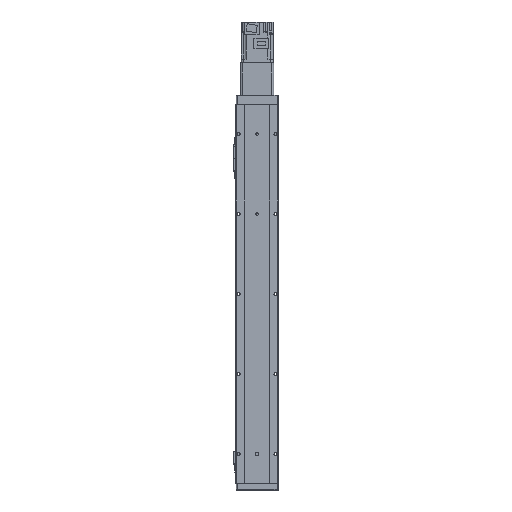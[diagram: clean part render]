
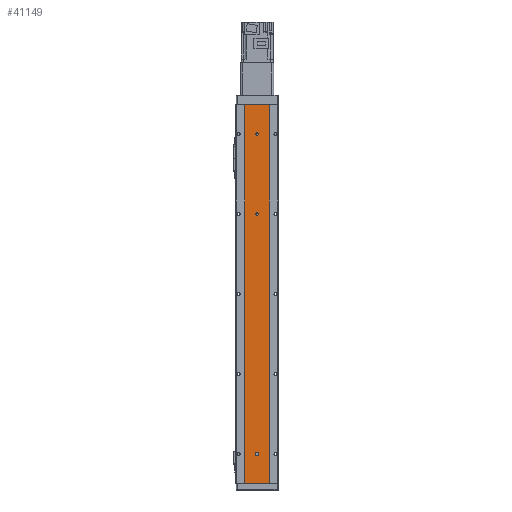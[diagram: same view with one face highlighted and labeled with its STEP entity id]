
A CAD part, front view. The second image highlights one B-rep face of the part: STEP entity #41149.
In plain terms, the highlighted planar face has unit normal (0, -1, 0).
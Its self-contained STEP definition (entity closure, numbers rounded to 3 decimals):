
#5382 = CIRCLE ( 'NONE', #19196, 2.5 ) ;
#6478 = DIRECTION ( 'NONE',  ( 0., -1., 0. ) ) ;
#6502 = DIRECTION ( 'NONE',  ( 1., 0., 0. ) ) ;
#6511 = PLANE ( 'NONE',  #43557 ) ;
#6520 = CARTESIAN_POINT ( 'NONE',  ( -23., 0.5, -709. ) ) ;
#7676 = EDGE_CURVE ( 'NONE', #24723, #24822, #29555, .T. ) ;
#7740 = EDGE_CURVE ( 'NONE', #24629, #24762, #29688, .T. ) ;
#8249 = EDGE_CURVE ( 'NONE', #24298, #25447, #33829, .T. ) ;
#8254 = EDGE_CURVE ( 'NONE', #24762, #24822, #33826, .T. ) ;
#8255 = EDGE_CURVE ( 'NONE', #24380, #24350, #33821, .T. ) ;
#8265 = EDGE_CURVE ( 'NONE', #24629, #24723, #33812, .T. ) ;
#8274 = EDGE_CURVE ( 'NONE', #25426, #24294, #33905, .T. ) ;
#8277 = EDGE_CURVE ( 'NONE', #24433, #24431, #33907, .T. ) ;
#8293 = EDGE_CURVE ( 'NONE', #25456, #25426, #33884, .T. ) ;
#8298 = EDGE_CURVE ( 'NONE', #25447, #25456, #33920, .T. ) ;
#9129 = EDGE_CURVE ( 'NONE', #24350, #24380, #31945, .T. ) ;
#9189 = EDGE_CURVE ( 'NONE', #24431, #24433, #32077, .T. ) ;
#11381 = EDGE_LOOP ( 'NONE', ( #12545, #12517, #12503, #12588, #12451 ) ) ;
#11389 = EDGE_LOOP ( 'NONE', ( #12531, #12549 ) ) ;
#11407 = EDGE_LOOP ( 'NONE', ( #12641, #12580 ) ) ;
#11534 = EDGE_LOOP ( 'NONE', ( #12620, #12608, #12558, #12743 ) ) ;
#12451 = ORIENTED_EDGE ( 'NONE', *, *, #43024, .F. ) ;
#12503 = ORIENTED_EDGE ( 'NONE', *, *, #8298, .F. ) ;
#12517 = ORIENTED_EDGE ( 'NONE', *, *, #8293, .F. ) ;
#12531 = ORIENTED_EDGE ( 'NONE', *, *, #8255, .F. ) ;
#12545 = ORIENTED_EDGE ( 'NONE', *, *, #8274, .F. ) ;
#12549 = ORIENTED_EDGE ( 'NONE', *, *, #9129, .F. ) ;
#12558 = ORIENTED_EDGE ( 'NONE', *, *, #7740, .T. ) ;
#12580 = ORIENTED_EDGE ( 'NONE', *, *, #9189, .F. ) ;
#12588 = ORIENTED_EDGE ( 'NONE', *, *, #8249, .F. ) ;
#12608 = ORIENTED_EDGE ( 'NONE', *, *, #8265, .F. ) ;
#12620 = ORIENTED_EDGE ( 'NONE', *, *, #7676, .F. ) ;
#12641 = ORIENTED_EDGE ( 'NONE', *, *, #8277, .F. ) ;
#12743 = ORIENTED_EDGE ( 'NONE', *, *, #8254, .T. ) ;
#15823 = AXIS2_PLACEMENT_3D ( 'NONE', #35235, #35185, #35178 ) ;
#15825 = AXIS2_PLACEMENT_3D ( 'NONE', #35247, #35266, #35302 ) ;
#15832 = AXIS2_PLACEMENT_3D ( 'NONE', #35377, #35431, #35412 ) ;
#15833 = AXIS2_PLACEMENT_3D ( 'NONE', #35500, #35437, #35438 ) ;
#19196 = AXIS2_PLACEMENT_3D ( 'NONE', #41003, #40964, #40986 ) ;
#22775 = CARTESIAN_POINT ( 'NONE',  ( 0., 0.5, -658. ) ) ;
#22792 = CARTESIAN_POINT ( 'NONE',  ( 2.5, 0.5, -655.5 ) ) ;
#22836 = CARTESIAN_POINT ( 'NONE',  ( 0., 0.5, -57. ) ) ;
#22902 = CARTESIAN_POINT ( 'NONE',  ( 0., 0.5, -202. ) ) ;
#22905 = CARTESIAN_POINT ( 'NONE',  ( 0., 0.5, -207. ) ) ;
#22910 = CARTESIAN_POINT ( 'NONE',  ( 0., 0.5, -52. ) ) ;
#23055 = CARTESIAN_POINT ( 'NONE',  ( -23., 0.5, -709. ) ) ;
#23103 = CARTESIAN_POINT ( 'NONE',  ( -23., 0.5, 0. ) ) ;
#23134 = CARTESIAN_POINT ( 'NONE',  ( 23., 0.5, -709. ) ) ;
#23180 = CARTESIAN_POINT ( 'NONE',  ( 23., 0.5, 0. ) ) ;
#23591 = CARTESIAN_POINT ( 'NONE',  ( -2.5, 0.5, -655.5 ) ) ;
#23617 = CARTESIAN_POINT ( 'NONE',  ( 2.5, 0.5, -653.5 ) ) ;
#23628 = CARTESIAN_POINT ( 'NONE',  ( -2.5, 0.5, -653.5 ) ) ;
#24294 = VERTEX_POINT ( 'NONE', #22775 ) ;
#24298 = VERTEX_POINT ( 'NONE', #22792 ) ;
#24350 = VERTEX_POINT ( 'NONE', #22902 ) ;
#24380 = VERTEX_POINT ( 'NONE', #22905 ) ;
#24431 = VERTEX_POINT ( 'NONE', #22910 ) ;
#24433 = VERTEX_POINT ( 'NONE', #22836 ) ;
#24629 = VERTEX_POINT ( 'NONE', #23055 ) ;
#24723 = VERTEX_POINT ( 'NONE', #23103 ) ;
#24762 = VERTEX_POINT ( 'NONE', #23134 ) ;
#24822 = VERTEX_POINT ( 'NONE', #23180 ) ;
#25426 = VERTEX_POINT ( 'NONE', #23591 ) ;
#25447 = VERTEX_POINT ( 'NONE', #23617 ) ;
#25456 = VERTEX_POINT ( 'NONE', #23628 ) ;
#25871 = CARTESIAN_POINT ( 'NONE',  ( -23., 0.5, 0. ) ) ;
#25878 = DIRECTION ( 'NONE',  ( 1., 0., 0. ) ) ;
#26036 = DIRECTION ( 'NONE',  ( 1., 0., 0. ) ) ;
#26049 = CARTESIAN_POINT ( 'NONE',  ( -23., 0.5, -709. ) ) ;
#29555 = LINE ( 'NONE', #25871, #29560 ) ;
#29560 = VECTOR ( 'NONE', #25878, 1000. ) ;
#29638 = VECTOR ( 'NONE', #26036, 1000. ) ;
#29688 = LINE ( 'NONE', #26049, #29638 ) ;
#31945 = CIRCLE ( 'NONE', #43165, 2.5 ) ;
#32077 = CIRCLE ( 'NONE', #43197, 2.5 ) ;
#33021 = CARTESIAN_POINT ( 'NONE',  ( 0., 0.5, -204.5 ) ) ;
#33024 = DIRECTION ( 'NONE',  ( 1., 0., 0. ) ) ;
#33053 = DIRECTION ( 'NONE',  ( 0., -1., 0. ) ) ;
#33153 = DIRECTION ( 'NONE',  ( 1., 0., 0. ) ) ;
#33156 = DIRECTION ( 'NONE',  ( 0., -1., 0. ) ) ;
#33172 = CARTESIAN_POINT ( 'NONE',  ( 0., 0.5, -54.5 ) ) ;
#33812 = LINE ( 'NONE', #35285, #33817 ) ;
#33817 = VECTOR ( 'NONE', #35336, 1000. ) ;
#33821 = CIRCLE ( 'NONE', #15823, 2.5 ) ;
#33826 = LINE ( 'NONE', #35154, #33841 ) ;
#33829 = LINE ( 'NONE', #35208, #33851 ) ;
#33841 = VECTOR ( 'NONE', #35231, 1000. ) ;
#33851 = VECTOR ( 'NONE', #35224, 1000. ) ;
#33884 = LINE ( 'NONE', #35407, #33898 ) ;
#33898 = VECTOR ( 'NONE', #35384, 1000. ) ;
#33905 = CIRCLE ( 'NONE', #15825, 2.5 ) ;
#33907 = CIRCLE ( 'NONE', #15832, 2.5 ) ;
#33920 = CIRCLE ( 'NONE', #15833, 2.5 ) ;
#35154 = CARTESIAN_POINT ( 'NONE',  ( 23., 0.5, -709. ) ) ;
#35178 = DIRECTION ( 'NONE',  ( 1., 0., 0. ) ) ;
#35185 = DIRECTION ( 'NONE',  ( 0., -1., 0. ) ) ;
#35208 = CARTESIAN_POINT ( 'NONE',  ( 2.5, 0.5, -709. ) ) ;
#35224 = DIRECTION ( 'NONE',  ( 0., 0., 1. ) ) ;
#35231 = DIRECTION ( 'NONE',  ( 0., 0., 1. ) ) ;
#35235 = CARTESIAN_POINT ( 'NONE',  ( 0., 0.5, -204.5 ) ) ;
#35247 = CARTESIAN_POINT ( 'NONE',  ( 0., 0.5, -655.5 ) ) ;
#35266 = DIRECTION ( 'NONE',  ( 0., -1., 0. ) ) ;
#35285 = CARTESIAN_POINT ( 'NONE',  ( -23., 0.5, -709. ) ) ;
#35302 = DIRECTION ( 'NONE',  ( 1., 0., 0. ) ) ;
#35336 = DIRECTION ( 'NONE',  ( 0., 0., 1. ) ) ;
#35377 = CARTESIAN_POINT ( 'NONE',  ( 0., 0.5, -54.5 ) ) ;
#35384 = DIRECTION ( 'NONE',  ( 0., 0., -1. ) ) ;
#35407 = CARTESIAN_POINT ( 'NONE',  ( -2.5, 0.5, -709. ) ) ;
#35412 = DIRECTION ( 'NONE',  ( 1., 0., 0. ) ) ;
#35431 = DIRECTION ( 'NONE',  ( 0., -1., 0. ) ) ;
#35437 = DIRECTION ( 'NONE',  ( 0., -1., 0. ) ) ;
#35438 = DIRECTION ( 'NONE',  ( 1., 0., 0. ) ) ;
#35500 = CARTESIAN_POINT ( 'NONE',  ( 0., 0.5, -653.5 ) ) ;
#40964 = DIRECTION ( 'NONE',  ( 0., -1., 0. ) ) ;
#40986 = DIRECTION ( 'NONE',  ( 1., 0., 0. ) ) ;
#41003 = CARTESIAN_POINT ( 'NONE',  ( 0., 0.5, -655.5 ) ) ;
#41149 = ADVANCED_FACE ( 'NONE', ( #46058, #46073, #46060, #46083 ), #6511, .T. ) ;
#43024 = EDGE_CURVE ( 'NONE', #24294, #24298, #5382, .T. ) ;
#43165 = AXIS2_PLACEMENT_3D ( 'NONE', #33021, #33053, #33024 ) ;
#43197 = AXIS2_PLACEMENT_3D ( 'NONE', #33172, #33156, #33153 ) ;
#43557 = AXIS2_PLACEMENT_3D ( 'NONE', #6520, #6478, #6502 ) ;
#46058 = FACE_BOUND ( 'NONE', #11381, .T. ) ;
#46060 = FACE_BOUND ( 'NONE', #11407, .T. ) ;
#46073 = FACE_BOUND ( 'NONE', #11389, .T. ) ;
#46083 = FACE_OUTER_BOUND ( 'NONE', #11534, .T. ) ;
